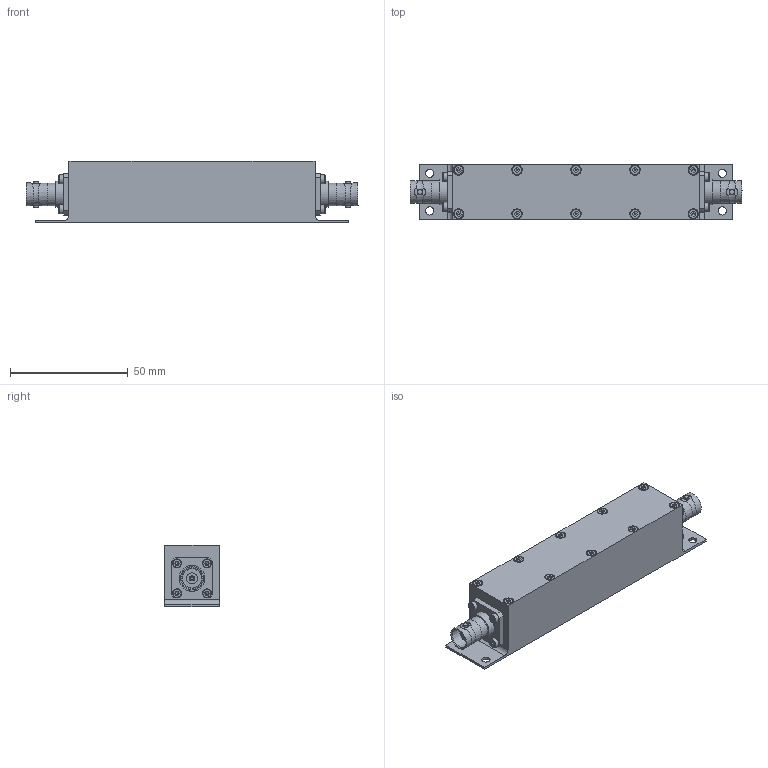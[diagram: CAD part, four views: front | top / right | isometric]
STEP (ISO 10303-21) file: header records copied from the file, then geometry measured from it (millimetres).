
FILE_DESCRIPTION(/* description */ ('Unknown'),/* implementation_level */ '2;1');
FILE_NAME(/* name */ 'DETI_MICROWAVE_LOWPASS_FILTER_001682_STEP',/* time_stamp */ '2021-05-27T15:18:51+02:00',/* author */ ('ALG'),/* organization */ ('DETI'),/* preprocessor_version */ 'ST-DEVELOPER v16.7',/* originating_system */ 'Solid Edge',/* authorisation */ 'Unknown');
FILE_SCHEMA (('AUTOMOTIVE_DESIGN {1 0 10303 214 3 1 1}'));
Length unit declared in the file: millimetre
Products named in the file (1): DETI_MICROWAVE_LOWPASS_FILTER_001682_STEP
Bounding box: 140.7 x 23 x 26 mm (x, y, z)
Volume: 37327.8 mm3; surface area: 24168 mm2
Topology: 1 solids, 32 shells, 1068 faces, 2734 edges, 1802 vertices
Faces by surface type: plane 650, cylinder 196, cone 144, torus 74, bspline 4
Full cylindrical faces by diameter (mm): 1.221 x12, 1.567 x4, 1.6 x12, 1.98 x4, 2 x22, 2.2 x10, 2.23 x4, 2.6 x8, 3 x12, 3.5 x4, 3.8 x18, 4.72 x2, 5.2 x2, 5.35 x2, 7.75 x2, 8 x2, 9.6 x2, 11 x2
Entity records: 37117 total; most frequent: CARTESIAN_POINT 5856, DIRECTION 4826, ORIENTED_EDGE 4528, EDGE_CURVE 2264, AXIS2_PLACEMENT_3D 1707, VERTEX_POINT 1654, FACE_BOUND 1510, EDGE_LOOP 1488
